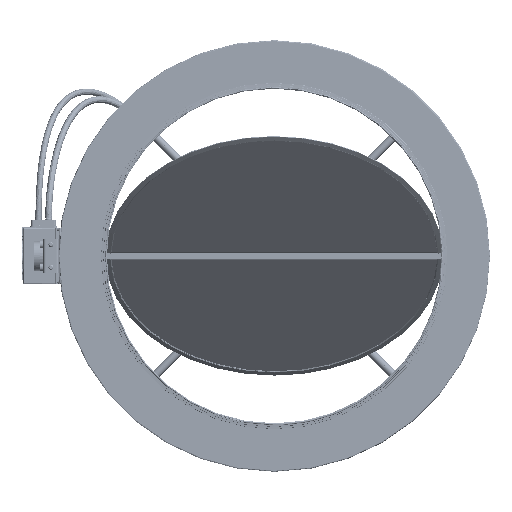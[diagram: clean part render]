
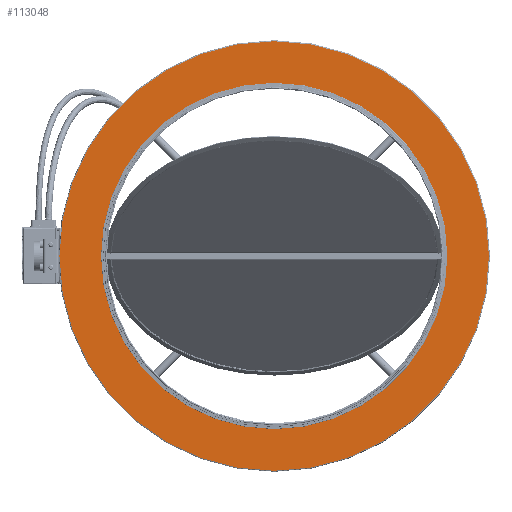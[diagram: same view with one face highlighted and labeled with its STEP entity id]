
A CAD part, left-side view. The second image highlights one B-rep face of the part: STEP entity #113048.
In plain terms, the highlighted planar face has unit normal (-1, 0, 0) as drawn and (0, -1, 0) by its records, which use the part's own axes.
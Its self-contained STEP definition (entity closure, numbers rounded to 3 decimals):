
#14919 = DIRECTION ( 'NONE',  ( 1., 0., 0. ) ) ;
#19033 = ORIENTED_EDGE ( 'NONE', *, *, #210397, .T. ) ;
#21659 = EDGE_CURVE ( 'NONE', #137659, #137659, #171796, .T. ) ;
#55833 = DIRECTION ( 'NONE',  ( 1., 0., 0. ) ) ;
#68147 = AXIS2_PLACEMENT_3D ( 'NONE', #331618, #359694, #387589 ) ;
#70985 = CARTESIAN_POINT ( 'NONE',  ( -50., 0., 0. ) ) ;
#87916 = FACE_BOUND ( 'NONE', #166497, .T. ) ;
#113048 = ADVANCED_FACE ( 'NONE', ( #323676, #87916 ), #233704, .T. ) ;
#134687 = DIRECTION ( 'NONE',  ( 0., -1., 0. ) ) ;
#137659 = VERTEX_POINT ( 'NONE', #315582 ) ;
#159661 = ORIENTED_EDGE ( 'NONE', *, *, #21659, .F. ) ;
#164585 = AXIS2_PLACEMENT_3D ( 'NONE', #207556, #329473, #55833 ) ;
#166497 = EDGE_LOOP ( 'NONE', ( #159661 ) ) ;
#171796 = CIRCLE ( 'NONE', #357114, 200. ) ;
#207556 = CARTESIAN_POINT ( 'NONE',  ( -50., 0., 0. ) ) ;
#210397 = EDGE_CURVE ( 'NONE', #240748, #240748, #337076, .T. ) ;
#233704 = PLANE ( 'NONE',  #68147 ) ;
#240748 = VERTEX_POINT ( 'NONE', #242743 ) ;
#242743 = CARTESIAN_POINT ( 'NONE',  ( 204., 0., 0. ) ) ;
#278918 = EDGE_LOOP ( 'NONE', ( #19033 ) ) ;
#315582 = CARTESIAN_POINT ( 'NONE',  ( 150., 0., 0. ) ) ;
#323676 = FACE_OUTER_BOUND ( 'NONE', #278918, .T. ) ;
#329473 = DIRECTION ( 'NONE',  ( 0., -1., 0. ) ) ;
#331618 = CARTESIAN_POINT ( 'NONE',  ( 0., 0., 0. ) ) ;
#337076 = CIRCLE ( 'NONE', #164585, 254. ) ;
#357114 = AXIS2_PLACEMENT_3D ( 'NONE', #70985, #134687, #14919 ) ;
#359694 = DIRECTION ( 'NONE',  ( 0., -1., 0. ) ) ;
#387589 = DIRECTION ( 'NONE',  ( 1., 0., 0. ) ) ;
